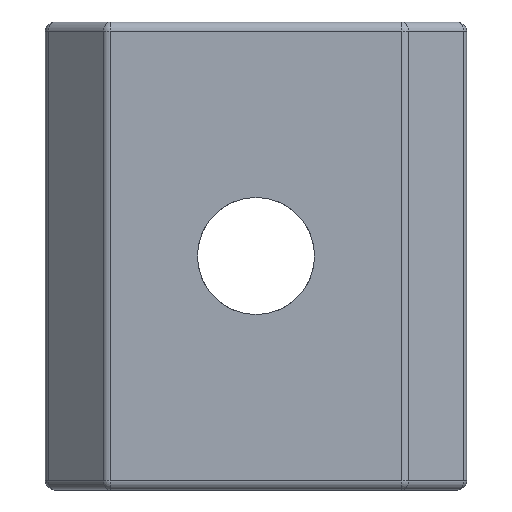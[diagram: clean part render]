
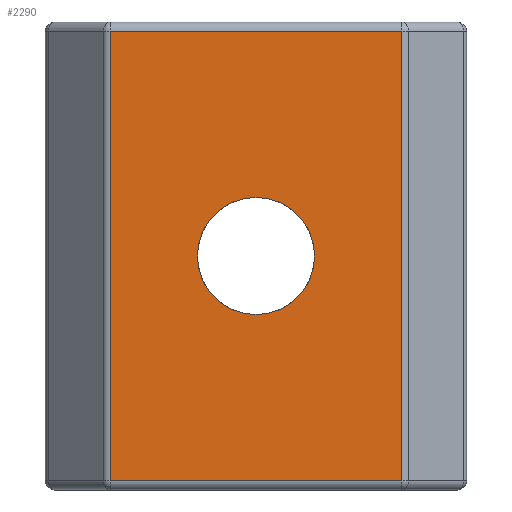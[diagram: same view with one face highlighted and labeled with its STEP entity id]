
A CAD part, front view. The second image highlights one B-rep face of the part: STEP entity #2290.
In plain terms, the highlighted planar face has unit normal (0, -1, 0).
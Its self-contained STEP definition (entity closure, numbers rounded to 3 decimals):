
#104 = CARTESIAN_POINT ( 'NONE',  ( -4.239, -5.2, -19.6 ) ) ;
#123 = VERTEX_POINT ( 'NONE', #483 ) ;
#173 = CARTESIAN_POINT ( 'NONE',  ( 8.395, -5.2, -19.6 ) ) ;
#184 = CARTESIAN_POINT ( 'NONE',  ( -4.073, -5.2, -19.6 ) ) ;
#223 = AXIS2_PLACEMENT_3D ( 'NONE', #286, #2335, #1237 ) ;
#240 = CARTESIAN_POINT ( 'NONE',  ( -4.239, -5.2, -0.4 ) ) ;
#262 = ORIENTED_EDGE ( 'NONE', *, *, #1375, .T. ) ;
#286 = CARTESIAN_POINT ( 'NONE',  ( 2.161, -5.2, -10. ) ) ;
#366 = CARTESIAN_POINT ( 'NONE',  ( -4.073, -5.2, -0.4 ) ) ;
#409 = LINE ( 'NONE', #104, #2279 ) ;
#419 = DIRECTION ( 'NONE',  ( 1., 0., 0. ) ) ;
#475 = CIRCLE ( 'NONE', #223, 2.5 ) ;
#483 = CARTESIAN_POINT ( 'NONE',  ( 8.395, -5.2, -0.4 ) ) ;
#572 = VERTEX_POINT ( 'NONE', #1234 ) ;
#616 = DIRECTION ( 'NONE',  ( 0., 0., 1. ) ) ;
#666 = PLANE ( 'NONE',  #1246 ) ;
#670 = DIRECTION ( 'NONE',  ( 1., 0., 0. ) ) ;
#743 = ORIENTED_EDGE ( 'NONE', *, *, #874, .T. ) ;
#835 = EDGE_CURVE ( 'NONE', #572, #1289, #845, .T. ) ;
#845 = CIRCLE ( 'NONE', #1621, 2.5 ) ;
#874 = EDGE_CURVE ( 'NONE', #123, #1197, #989, .T. ) ;
#989 = LINE ( 'NONE', #240, #1223 ) ;
#993 = CARTESIAN_POINT ( 'NONE',  ( -4.073, -5.2, -20. ) ) ;
#1038 = CARTESIAN_POINT ( 'NONE',  ( -4.239, -5.2, -20. ) ) ;
#1197 = VERTEX_POINT ( 'NONE', #366 ) ;
#1202 = ORIENTED_EDGE ( 'NONE', *, *, #1420, .T. ) ;
#1223 = VECTOR ( 'NONE', #2080, 1000. ) ;
#1234 = CARTESIAN_POINT ( 'NONE',  ( 2.161, -5.2, -7.5 ) ) ;
#1237 = DIRECTION ( 'NONE',  ( 1., 0., 0. ) ) ;
#1246 = AXIS2_PLACEMENT_3D ( 'NONE', #1038, #1597, #2134 ) ;
#1250 = VECTOR ( 'NONE', #616, 1000. ) ;
#1281 = VERTEX_POINT ( 'NONE', #173 ) ;
#1289 = VERTEX_POINT ( 'NONE', #1305 ) ;
#1305 = CARTESIAN_POINT ( 'NONE',  ( 2.161, -5.2, -12.5 ) ) ;
#1327 = VERTEX_POINT ( 'NONE', #184 ) ;
#1339 = LINE ( 'NONE', #993, #2215 ) ;
#1362 = CARTESIAN_POINT ( 'NONE',  ( 8.395, -5.2, -20. ) ) ;
#1375 = EDGE_CURVE ( 'NONE', #1281, #123, #1855, .T. ) ;
#1420 = EDGE_CURVE ( 'NONE', #1289, #572, #475, .T. ) ;
#1434 = EDGE_LOOP ( 'NONE', ( #2233, #1202 ) ) ;
#1435 = EDGE_CURVE ( 'NONE', #1327, #1281, #409, .T. ) ;
#1597 = DIRECTION ( 'NONE',  ( 0., -1., 0. ) ) ;
#1604 = ORIENTED_EDGE ( 'NONE', *, *, #2046, .T. ) ;
#1621 = AXIS2_PLACEMENT_3D ( 'NONE', #1677, #2047, #419 ) ;
#1677 = CARTESIAN_POINT ( 'NONE',  ( 2.161, -5.2, -10. ) ) ;
#1789 = EDGE_LOOP ( 'NONE', ( #743, #1604, #1980, #262 ) ) ;
#1855 = LINE ( 'NONE', #1362, #1250 ) ;
#1980 = ORIENTED_EDGE ( 'NONE', *, *, #1435, .T. ) ;
#2046 = EDGE_CURVE ( 'NONE', #1197, #1327, #1339, .T. ) ;
#2047 = DIRECTION ( 'NONE',  ( 0., 1., 0. ) ) ;
#2079 = FACE_OUTER_BOUND ( 'NONE', #1789, .T. ) ;
#2080 = DIRECTION ( 'NONE',  ( -1., 0., 0. ) ) ;
#2134 = DIRECTION ( 'NONE',  ( 1., 0., 0. ) ) ;
#2215 = VECTOR ( 'NONE', #2266, 1000. ) ;
#2233 = ORIENTED_EDGE ( 'NONE', *, *, #835, .T. ) ;
#2266 = DIRECTION ( 'NONE',  ( 0., 0., -1. ) ) ;
#2270 = FACE_BOUND ( 'NONE', #1434, .T. ) ;
#2279 = VECTOR ( 'NONE', #670, 1000. ) ;
#2290 = ADVANCED_FACE ( 'NONE', ( #2079, #2270 ), #666, .T. ) ;
#2335 = DIRECTION ( 'NONE',  ( 0., 1., 0. ) ) ;
